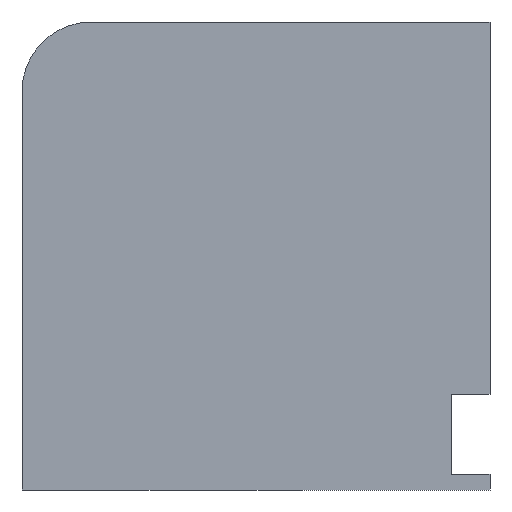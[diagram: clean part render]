
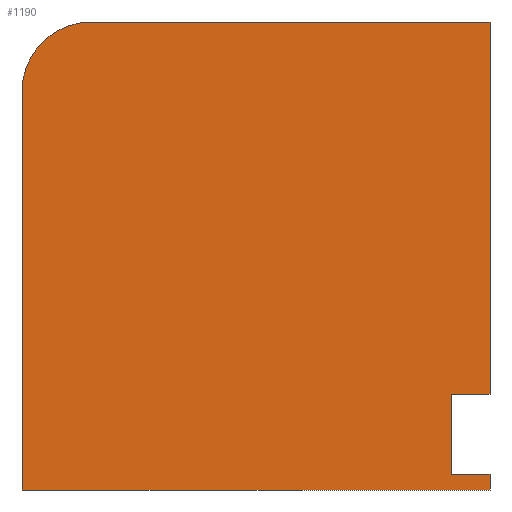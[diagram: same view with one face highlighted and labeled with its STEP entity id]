
A CAD part, left-side view. The second image highlights one B-rep face of the part: STEP entity #1190.
In plain terms, the highlighted planar face has unit normal (-1, 0, 0).
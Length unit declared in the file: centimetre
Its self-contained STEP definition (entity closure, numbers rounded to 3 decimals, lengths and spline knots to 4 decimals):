
#6 = ORIENTED_EDGE ( 'NONE', *, *, #247, .T. ) ;
#33 = VECTOR ( 'NONE', #161, 100. ) ;
#85 = DIRECTION ( 'NONE',  ( 0., 0., -1. ) ) ;
#94 = CARTESIAN_POINT ( 'NONE',  ( 0., 0., 1000. ) ) ;
#96 = CARTESIAN_POINT ( 'NONE',  ( 0., 0., 0. ) ) ;
#99 = CARTESIAN_POINT ( 'NONE',  ( 0., 1000., 851.8692 ) ) ;
#116 = ORIENTED_EDGE ( 'NONE', *, *, #319, .T. ) ;
#122 = FACE_OUTER_BOUND ( 'NONE', #400, .T. ) ;
#149 = CARTESIAN_POINT ( 'NONE',  ( 0., 81.5395, 33.7173 ) ) ;
#161 = DIRECTION ( 'NONE',  ( 0., 1., 0. ) ) ;
#169 = ORIENTED_EDGE ( 'NONE', *, *, #1020, .F. ) ;
#170 = CARTESIAN_POINT ( 'NONE',  ( 0., 1000., 1000. ) ) ;
#179 = DIRECTION ( 'NONE',  ( 0., 0., -1. ) ) ;
#239 = CARTESIAN_POINT ( 'NONE',  ( 0., 81.5395, 204.6731 ) ) ;
#240 = VERTEX_POINT ( 'NONE', #877 ) ;
#244 = ORIENTED_EDGE ( 'NONE', *, *, #1139, .F. ) ;
#247 = EDGE_CURVE ( 'NONE', #396, #240, #817, .T. ) ;
#262 = CARTESIAN_POINT ( 'NONE',  ( 0., 0., 1000. ) ) ;
#296 = EDGE_CURVE ( 'NONE', #240, #1007, #635, .T. ) ;
#301 = CARTESIAN_POINT ( 'NONE',  ( 0., 1000., 1000. ) ) ;
#319 = EDGE_CURVE ( 'NONE', #945, #396, #839, .T. ) ;
#345 = EDGE_CURVE ( 'NONE', #617, #591, #555, .T. ) ;
#356 = EDGE_CURVE ( 'NONE', #794, #669, #923, .T. ) ;
#361 = CARTESIAN_POINT ( 'NONE',  ( 0., 1000., 0. ) ) ;
#364 = DIRECTION ( 'NONE',  ( 0., 0., 1. ) ) ;
#382 = DIRECTION ( 'NONE',  ( 0., -1., 0. ) ) ;
#396 = VERTEX_POINT ( 'NONE', #99 ) ;
#400 = EDGE_LOOP ( 'NONE', ( #244, #474, #962, #834, #492, #169, #116, #6, #576 ) ) ;
#403 = VECTOR ( 'NONE', #179, 100. ) ;
#423 = VECTOR ( 'NONE', #745, 100. ) ;
#434 = CARTESIAN_POINT ( 'NONE',  ( 0., 0., 204.6731 ) ) ;
#474 = ORIENTED_EDGE ( 'NONE', *, *, #998, .T. ) ;
#481 = PLANE ( 'NONE',  #798 ) ;
#492 = ORIENTED_EDGE ( 'NONE', *, *, #356, .F. ) ;
#503 = LINE ( 'NONE', #701, #1136 ) ;
#552 = CARTESIAN_POINT ( 'NONE',  ( 0., 81.5395, 33.7173 ) ) ;
#555 = LINE ( 'NONE', #552, #707 ) ;
#576 = ORIENTED_EDGE ( 'NONE', *, *, #296, .T. ) ;
#591 = VERTEX_POINT ( 'NONE', #239 ) ;
#617 = VERTEX_POINT ( 'NONE', #149 ) ;
#634 = EDGE_CURVE ( 'NONE', #591, #669, #503, .T. ) ;
#635 = LINE ( 'NONE', #361, #722 ) ;
#664 = VECTOR ( 'NONE', #382, 100. ) ;
#669 = VERTEX_POINT ( 'NONE', #434 ) ;
#685 = DIRECTION ( 'NONE',  ( 1., 0., 0. ) ) ;
#701 = CARTESIAN_POINT ( 'NONE',  ( 0., 0., 204.6731 ) ) ;
#707 = VECTOR ( 'NONE', #364, 100. ) ;
#722 = VECTOR ( 'NONE', #731, 100. ) ;
#723 = VECTOR ( 'NONE', #1050, 100. ) ;
#731 = DIRECTION ( 'NONE',  ( 0., -1., 0. ) ) ;
#745 = DIRECTION ( 'NONE',  ( 0., 0., -1. ) ) ;
#754 = LINE ( 'NONE', #1031, #664 ) ;
#783 = CARTESIAN_POINT ( 'NONE',  ( 0., 0., 1000. ) ) ;
#790 = DIRECTION ( 'NONE',  ( 0., -1., 0. ) ) ;
#794 = VERTEX_POINT ( 'NONE', #262 ) ;
#798 = AXIS2_PLACEMENT_3D ( 'NONE', #301, #685, #1061 ) ;
#817 = LINE ( 'NONE', #170, #403 ) ;
#828 = CARTESIAN_POINT ( 'NONE',  ( 0., 851.8692, 1000. ) ) ;
#834 = ORIENTED_EDGE ( 'NONE', *, *, #634, .T. ) ;
#839 = CIRCLE ( 'NONE', #1157, 148.1308 ) ;
#877 = CARTESIAN_POINT ( 'NONE',  ( 0., 1000., 0. ) ) ;
#878 = CARTESIAN_POINT ( 'NONE',  ( 0., 0., 33.7173 ) ) ;
#917 = DIRECTION ( 'NONE',  ( -1., 0., 0. ) ) ;
#919 = VERTEX_POINT ( 'NONE', #878 ) ;
#923 = LINE ( 'NONE', #94, #423 ) ;
#938 = CARTESIAN_POINT ( 'NONE',  ( 0., 0., 33.7173 ) ) ;
#945 = VERTEX_POINT ( 'NONE', #828 ) ;
#956 = LINE ( 'NONE', #783, #723 ) ;
#962 = ORIENTED_EDGE ( 'NONE', *, *, #345, .T. ) ;
#998 = EDGE_CURVE ( 'NONE', #919, #617, #1018, .T. ) ;
#1006 = CARTESIAN_POINT ( 'NONE',  ( 0., 851.8692, 851.8692 ) ) ;
#1007 = VERTEX_POINT ( 'NONE', #96 ) ;
#1018 = LINE ( 'NONE', #938, #33 ) ;
#1020 = EDGE_CURVE ( 'NONE', #945, #794, #754, .T. ) ;
#1031 = CARTESIAN_POINT ( 'NONE',  ( 0., 1000., 1000. ) ) ;
#1050 = DIRECTION ( 'NONE',  ( 0., 0., -1. ) ) ;
#1061 = DIRECTION ( 'NONE',  ( 0., 0., -1. ) ) ;
#1136 = VECTOR ( 'NONE', #790, 100. ) ;
#1139 = EDGE_CURVE ( 'NONE', #919, #1007, #956, .T. ) ;
#1157 = AXIS2_PLACEMENT_3D ( 'NONE', #1006, #917, #85 ) ;
#1190 = ADVANCED_FACE ( 'NONE', ( #122 ), #481, .F. ) ;
